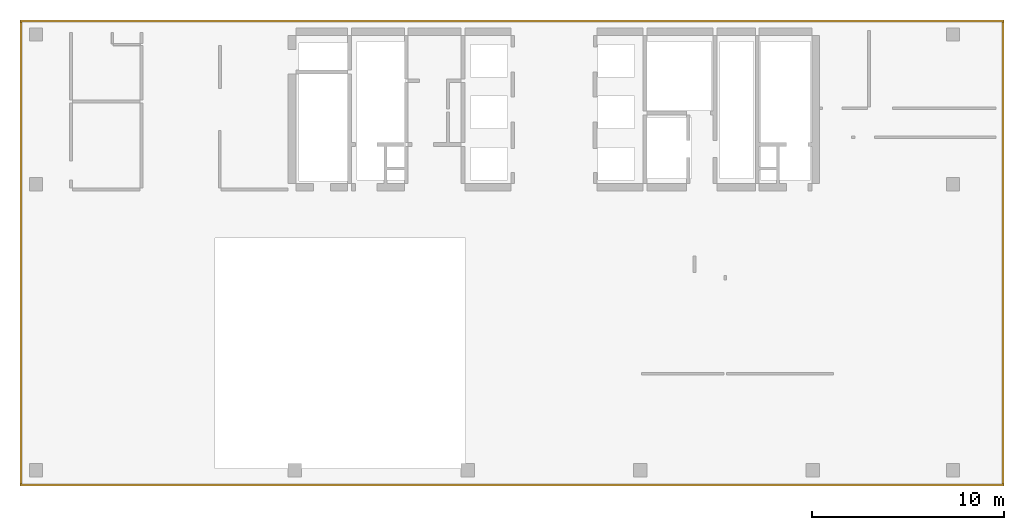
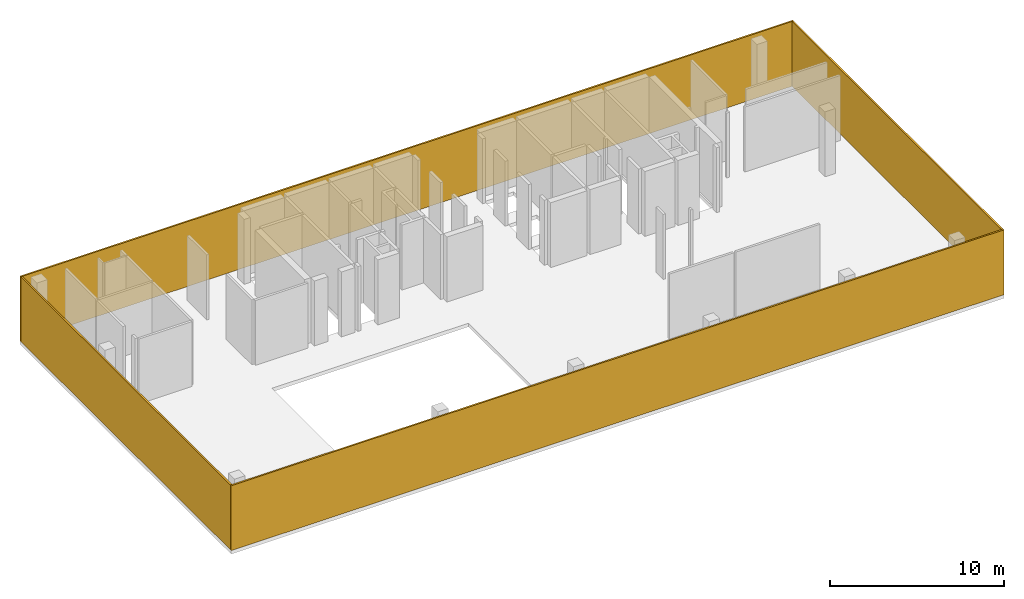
# One storey, part 3 of 3: 4 curtain walls.
"""IFC4 building model written with IfcOpenShell, lengths in millimetres."""

from ifc_helpers import new_model, si_unit, frame, origin, place, context, project, spatial, triangles, element, save


model = new_model("IFC4")

# Units and contexts
model_context = context("Model", 3, precision=0.001, world=origin())
ifc_project = project(units=[si_unit("LENGTHUNIT", "METRE", prefix="MILLI"), si_unit("AREAUNIT", "SQUARE_METRE"), si_unit("VOLUMEUNIT", "CUBIC_METRE")], contexts=[model_context])

# Site, building, storey
site_placement = place(None, origin())
site = spatial("IfcSite", under=ifc_project, at=site_placement, Name="Site", CompositionType="ELEMENT")
building_placement = place(site_placement, origin())
building = spatial("IfcBuilding", under=site, at=building_placement, Name="INNOCEAN", CompositionType="ELEMENT")
storey_placement = place(building_placement, frame((0.0, 0.0, 11000.0)))
storey = spatial("IfcBuildingStorey", under=building, at=storey_placement, Name="F03", CompositionType="ELEMENT", Elevation=11000.0)

# Curtain walls
curtain_wall_1_placement = place(storey_placement, origin())
element("IfcCurtainWall", 1, at=curtain_wall_1_placement, inside=storey, Name="F03_Facade_F03_001", context=model_context, shape_type="Tessellation", body=[
    triangles([(50420.3187250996, 25825.974025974, 0.0), (-846.215139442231, 25825.974025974, 0.0), (-846.215139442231, 25825.974025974, 4550.0), (50420.3187250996, 25825.974025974, 4550.0), (50420.3187250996, 25720.1298701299, 4550.0), (50420.3187250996, 25720.1298701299, 0.0), (-846.215139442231, 25720.1298701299, 0.0), (-846.215139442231, 25720.1298701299, 4550.0)], [[1, 2, 3], [1, 3, 4], [1, 4, 5], [6, 1, 5], [7, 6, 5], [7, 5, 8], [7, 8, 3], [2, 7, 3], [2, 1, 6], [2, 6, 7], [4, 3, 5], [5, 3, 8]], closed=True),
])
curtain_wall_2_placement = place(storey_placement, origin())
element("IfcCurtainWall", 2, at=curtain_wall_2_placement, inside=storey, Name="F03_Facade_F03_002", context=model_context, shape_type="Tessellation", body=[
    triangles([(50420.3187250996, 1658.22510822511, 0.0), (-846.215139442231, 1658.22510822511, 0.0), (-846.215139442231, 1658.22510822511, 4550.0), (50420.3187250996, 1658.22510822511, 4550.0), (50420.3187250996, 1552.38095238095, 4550.0), (50420.3187250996, 1552.38095238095, 0.0), (-846.215139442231, 1552.38095238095, 0.0), (-846.215139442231, 1552.38095238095, 4550.0)], [[1, 2, 3], [1, 3, 4], [1, 4, 5], [6, 1, 5], [7, 6, 5], [7, 5, 8], [7, 8, 3], [2, 7, 3], [2, 1, 6], [2, 6, 7], [4, 3, 5], [5, 3, 8]], closed=True),
])
curtain_wall_3_placement = place(storey_placement, origin())
element("IfcCurtainWall", 3, at=curtain_wall_3_placement, inside=storey, Name="F03_Facade_F03_003", context=model_context, shape_type="Tessellation", body=[
    triangles([(-740.438247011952, 25720.1298701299, 0.0), (-846.215139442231, 25720.1298701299, 0.0), (-846.215139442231, 25720.1298701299, 4550.0), (-740.438247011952, 25720.1298701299, 4550.0), (-740.438247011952, 1658.22510822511, 0.0), (-740.438247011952, 1658.22510822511, 4550.0), (-846.215139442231, 1658.22510822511, 0.0), (-846.215139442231, 1658.22510822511, 4550.0)], [[1, 2, 3], [1, 3, 4], [5, 1, 4], [5, 4, 6], [7, 5, 6], [7, 6, 8], [2, 7, 8], [2, 8, 3], [2, 1, 5], [2, 5, 7], [4, 3, 6], [6, 3, 8]], closed=True),
])
curtain_wall_4_placement = place(storey_placement, origin())
element("IfcCurtainWall", 4, at=curtain_wall_4_placement, inside=storey, Name="F03_Facade_F03_004", context=model_context, shape_type="Tessellation", body=[
    triangles([(50314.5418326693, 25720.1298701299, 0.0), (50314.5418326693, 25720.1298701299, 4550.0), (50420.3187250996, 25720.1298701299, 4550.0), (50420.3187250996, 25720.1298701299, 0.0), (50420.3187250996, 1658.22510822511, 0.0), (50420.3187250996, 1658.22510822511, 4550.0), (50314.5418326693, 1658.22510822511, 4550.0), (50314.5418326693, 1658.22510822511, 0.0)], [[1, 2, 3], [4, 1, 3], [5, 4, 3], [5, 3, 6], [5, 6, 7], [8, 5, 7], [1, 8, 7], [1, 7, 2], [1, 4, 5], [1, 5, 8], [3, 2, 6], [6, 2, 7]], closed=True),
])

save(model, "model.ifc")
